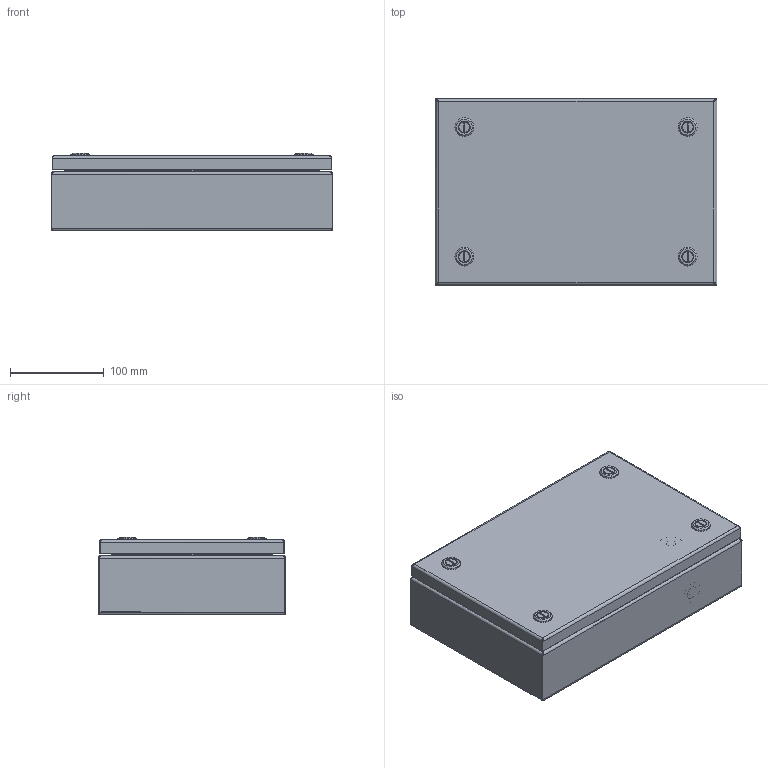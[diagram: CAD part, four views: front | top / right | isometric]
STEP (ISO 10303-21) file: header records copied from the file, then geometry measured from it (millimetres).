
FILE_DESCRIPTION (( 'STEP AP214' ), '1' );
FILE_NAME ('BSS 20.30.08 Êîðîáêà.STEP', '2022-09-19T11:23:43', ( '' ), ( '' ), 'SwSTEP 2.0', 'SolidWorks 2019', '' );
FILE_SCHEMA (( 'AUTOMOTIVE_DESIGN' ));
Length unit declared in the file: millimetre
Products named in the file (1): BSS 20.30.08 Êîðîáêà
Bounding box: 300 x 200 x 83 mm (x, y, z)
Volume: 336249.7 mm3; surface area: 539146 mm2
Topology: 34 solids, 34 shells, 1692 faces, 4076 edges, 2520 vertices
Faces by surface type: plane 1095, cylinder 363, cone 102, bspline 80, torus 44, sphere 8
Full cylindrical faces by diameter (mm): 3.2 x22, 7 x6, 9 x4, 10 x1, 14 x1, 24 x2
Entity records: 80947 total; most frequent: CARTESIAN_POINT 23490, ORIENTED_EDGE 8040, DIRECTION 7537, EDGE_CURVE 4020, VECTOR 2725, LINE 2725, VERTEX_POINT 2516, AXIS2_PLACEMENT_3D 2406
